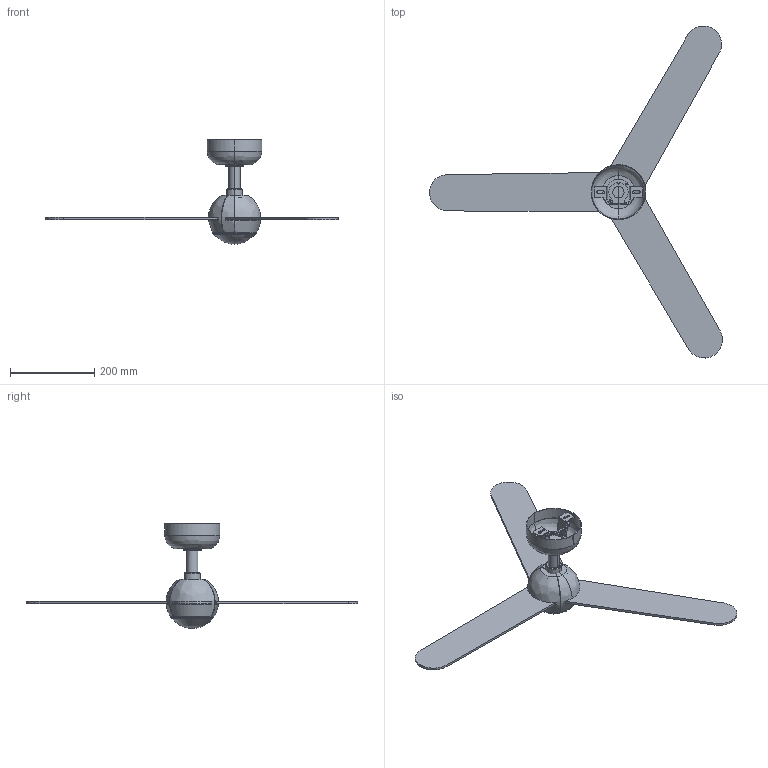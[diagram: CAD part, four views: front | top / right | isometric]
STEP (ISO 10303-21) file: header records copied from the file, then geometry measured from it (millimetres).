
FILE_DESCRIPTION(/* description */ (''),/* implementation_level */ '2;1');
FILE_NAME(/* name */ '34270_3d',/* time_stamp */ '2026-06-02T11:54:36+02:00',/* author */ (''),/* organization */ (''),/* preprocessor_version */ 'ST-DEVELOPER v19.2',/* originating_system */ 'Rhino 8.30',/* authorisation */ '');
FILE_SCHEMA (('CONFIG_CONTROL_DESIGN'));
Length unit declared in the file: millimetre
Products named in the file (12): Document; SFERA_S - fan-522943-_3D_; Bloque 11; Bloque 12; Bloque 13; Bloque 14; Bloque 15; Bloque 16; Bloque 17; Bloque 18; Bloque 19; Bloque 20
Bounding box: 693.96 x 786.8 x 248.42 mm (x, y, z)
Surface area: 451265.9 mm2 (no closed solid volume)
Topology: 0 solids, 257 shells, 262 faces, 1411 edges, 1404 vertices
Faces by surface type: plane 140, cylinder 66, bspline 56
Entity records: 24875 total; most frequent: CARTESIAN_POINT 12731, ORIENTED_EDGE 1414, EDGE_CURVE 1409, VERTEX_POINT 1404, B_SPLINE_CURVE_WITH_KNOTS 1068, DIRECTION 934, AXIS2_PLACEMENT_3D 570, TRIMMED_CURVE 331
